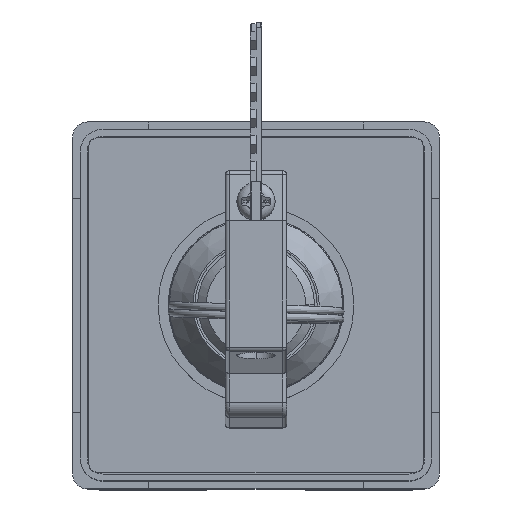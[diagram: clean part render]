
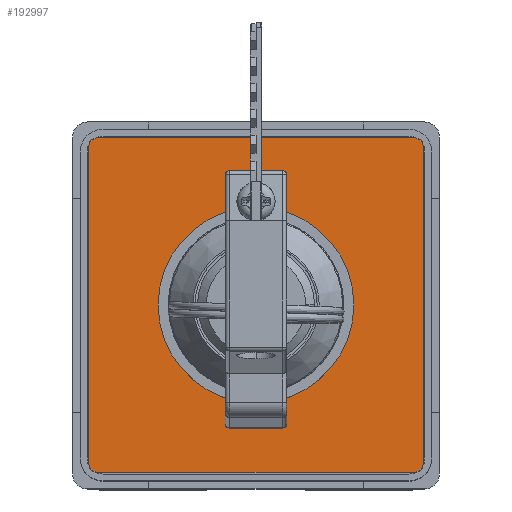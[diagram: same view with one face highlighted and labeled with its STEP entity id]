
A CAD part, top view. The second image highlights one B-rep face of the part: STEP entity #192997.
In plain terms, the highlighted planar face has unit normal (0, 0, 1).
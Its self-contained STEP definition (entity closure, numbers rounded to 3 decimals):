
#202 = DIRECTION ( 'NONE',  ( -1., 0., 0. ) ) ;
#5248 = VERTEX_POINT ( 'NONE', #231390 ) ;
#12457 = CARTESIAN_POINT ( 'NONE',  ( -14.489, -25.961, -49.332 ) ) ;
#13651 = EDGE_LOOP ( 'NONE', ( #37607, #112199, #43175, #241584, #22527, #191626, #257281, #207232 ) ) ;
#17276 = CARTESIAN_POINT ( 'NONE',  ( 27.211, -26.961, -49.332 ) ) ;
#21046 = AXIS2_PLACEMENT_3D ( 'NONE', #12457, #34638, #52468 ) ;
#21467 = DIRECTION ( 'NONE',  ( 0., 0., -1. ) ) ;
#21918 = CARTESIAN_POINT ( 'NONE',  ( -15.489, 15.739, -49.332 ) ) ;
#22330 = CARTESIAN_POINT ( 'NONE',  ( 27.211, -25.961, -49.332 ) ) ;
#22527 = ORIENTED_EDGE ( 'NONE', *, *, #174629, .F. ) ;
#31554 = DIRECTION ( 'NONE',  ( 0., 1., 0. ) ) ;
#34638 = DIRECTION ( 'NONE',  ( 0., 0., -1. ) ) ;
#37607 = ORIENTED_EDGE ( 'NONE', *, *, #103247, .F. ) ;
#37941 = LINE ( 'NONE', #153251, #95203 ) ;
#40442 = CARTESIAN_POINT ( 'NONE',  ( -14.489, 15.739, -49.332 ) ) ;
#42381 = LINE ( 'NONE', #107247, #61490 ) ;
#43092 = CIRCLE ( 'NONE', #252338, 12.8 ) ;
#43175 = ORIENTED_EDGE ( 'NONE', *, *, #176962, .F. ) ;
#45003 = DIRECTION ( 'NONE',  ( -1., 0., 0. ) ) ;
#46738 = CARTESIAN_POINT ( 'NONE',  ( 27.211, 15.739, -49.332 ) ) ;
#52468 = DIRECTION ( 'NONE',  ( -1., 0., 0. ) ) ;
#61490 = VECTOR ( 'NONE', #106354, 1000. ) ;
#65542 = CARTESIAN_POINT ( 'NONE',  ( 27.211, 15.739, -49.332 ) ) ;
#70694 = CARTESIAN_POINT ( 'NONE',  ( 6.361, -5.111, -49.332 ) ) ;
#74570 = EDGE_CURVE ( 'NONE', #217291, #222446, #43092, .T. ) ;
#77284 = VERTEX_POINT ( 'NONE', #110954 ) ;
#80260 = DIRECTION ( 'NONE',  ( -1., 0., 0. ) ) ;
#80477 = EDGE_CURVE ( 'NONE', #187442, #236268, #42381, .T. ) ;
#85485 = EDGE_CURVE ( 'NONE', #77284, #127542, #146362, .T. ) ;
#90298 = DIRECTION ( 'NONE',  ( 0., 0., -1. ) ) ;
#95203 = VECTOR ( 'NONE', #31554, 1000. ) ;
#97957 = CIRCLE ( 'NONE', #251985, 12.8 ) ;
#98983 = DIRECTION ( 'NONE',  ( 0., 0., -1. ) ) ;
#102513 = EDGE_LOOP ( 'NONE', ( #201568, #203272 ) ) ;
#102870 = DIRECTION ( 'NONE',  ( 0., 0., -1. ) ) ;
#103247 = EDGE_CURVE ( 'NONE', #236268, #103645, #180164, .T. ) ;
#103645 = VERTEX_POINT ( 'NONE', #245383 ) ;
#106354 = DIRECTION ( 'NONE',  ( 1., 0., 0. ) ) ;
#107247 = CARTESIAN_POINT ( 'NONE',  ( 27.211, 16.739, -49.332 ) ) ;
#108885 = DIRECTION ( 'NONE',  ( -1., 0., 0. ) ) ;
#110954 = CARTESIAN_POINT ( 'NONE',  ( 28.211, -25.961, -49.332 ) ) ;
#112199 = ORIENTED_EDGE ( 'NONE', *, *, #80477, .F. ) ;
#125198 = EDGE_CURVE ( 'NONE', #103645, #77284, #132366, .T. ) ;
#127542 = VERTEX_POINT ( 'NONE', #190291 ) ;
#132366 = LINE ( 'NONE', #228140, #170601 ) ;
#142270 = CIRCLE ( 'NONE', #21046, 1. ) ;
#146362 = CIRCLE ( 'NONE', #207208, 1. ) ;
#153244 = EDGE_CURVE ( 'NONE', #222446, #217291, #97957, .T. ) ;
#153251 = CARTESIAN_POINT ( 'NONE',  ( -15.489, 15.739, -49.332 ) ) ;
#159299 = CARTESIAN_POINT ( 'NONE',  ( -14.489, 16.739, -49.332 ) ) ;
#164820 = DIRECTION ( 'NONE',  ( -1., 0., 0. ) ) ;
#165141 = CARTESIAN_POINT ( 'NONE',  ( 27.211, 16.739, -49.332 ) ) ;
#167499 = CARTESIAN_POINT ( 'NONE',  ( 6.361, -5.111, -49.332 ) ) ;
#170601 = VECTOR ( 'NONE', #229003, 1000. ) ;
#174629 = EDGE_CURVE ( 'NONE', #249042, #5248, #142270, .T. ) ;
#176962 = EDGE_CURVE ( 'NONE', #223697, #187442, #181412, .T. ) ;
#180164 = CIRCLE ( 'NONE', #215814, 1. ) ;
#181412 = CIRCLE ( 'NONE', #229962, 1. ) ;
#182747 = DIRECTION ( 'NONE',  ( -1., 0., 0. ) ) ;
#187442 = VERTEX_POINT ( 'NONE', #159299 ) ;
#188875 = DIRECTION ( 'NONE',  ( 0., 0., -1. ) ) ;
#190291 = CARTESIAN_POINT ( 'NONE',  ( 27.211, -26.961, -49.332 ) ) ;
#191626 = ORIENTED_EDGE ( 'NONE', *, *, #227819, .F. ) ;
#192997 = ADVANCED_FACE ( 'NONE', ( #257009, #231361 ), #208780, .F. ) ;
#201568 = ORIENTED_EDGE ( 'NONE', *, *, #153244, .T. ) ;
#203272 = ORIENTED_EDGE ( 'NONE', *, *, #74570, .T. ) ;
#207208 = AXIS2_PLACEMENT_3D ( 'NONE', #22330, #21467, #202 ) ;
#207232 = ORIENTED_EDGE ( 'NONE', *, *, #125198, .F. ) ;
#208780 = PLANE ( 'NONE',  #263643 ) ;
#215814 = AXIS2_PLACEMENT_3D ( 'NONE', #65542, #102870, #245587 ) ;
#217291 = VERTEX_POINT ( 'NONE', #233941 ) ;
#217828 = VECTOR ( 'NONE', #80260, 1000. ) ;
#222446 = VERTEX_POINT ( 'NONE', #256375 ) ;
#223697 = VERTEX_POINT ( 'NONE', #21918 ) ;
#227819 = EDGE_CURVE ( 'NONE', #127542, #249042, #249742, .T. ) ;
#228140 = CARTESIAN_POINT ( 'NONE',  ( 28.211, 15.739, -49.332 ) ) ;
#229003 = DIRECTION ( 'NONE',  ( 0., -1., 0. ) ) ;
#229962 = AXIS2_PLACEMENT_3D ( 'NONE', #40442, #98983, #182747 ) ;
#230143 = DIRECTION ( 'NONE',  ( 0., 0., -1. ) ) ;
#231361 = FACE_OUTER_BOUND ( 'NONE', #13651, .T. ) ;
#231390 = CARTESIAN_POINT ( 'NONE',  ( -15.489, -25.961, -49.332 ) ) ;
#232540 = EDGE_CURVE ( 'NONE', #5248, #223697, #37941, .T. ) ;
#233941 = CARTESIAN_POINT ( 'NONE',  ( 19.161, -5.111, -49.332 ) ) ;
#236268 = VERTEX_POINT ( 'NONE', #165141 ) ;
#241584 = ORIENTED_EDGE ( 'NONE', *, *, #232540, .F. ) ;
#243117 = CARTESIAN_POINT ( 'NONE',  ( -14.489, -26.961, -49.332 ) ) ;
#245383 = CARTESIAN_POINT ( 'NONE',  ( 28.211, 15.739, -49.332 ) ) ;
#245587 = DIRECTION ( 'NONE',  ( -1., 0., 0. ) ) ;
#249042 = VERTEX_POINT ( 'NONE', #243117 ) ;
#249742 = LINE ( 'NONE', #17276, #217828 ) ;
#251985 = AXIS2_PLACEMENT_3D ( 'NONE', #167499, #188875, #164820 ) ;
#252338 = AXIS2_PLACEMENT_3D ( 'NONE', #70694, #90298, #108885 ) ;
#256375 = CARTESIAN_POINT ( 'NONE',  ( -6.439, -5.111, -49.332 ) ) ;
#257009 = FACE_BOUND ( 'NONE', #102513, .T. ) ;
#257281 = ORIENTED_EDGE ( 'NONE', *, *, #85485, .F. ) ;
#263643 = AXIS2_PLACEMENT_3D ( 'NONE', #46738, #230143, #45003 ) ;
